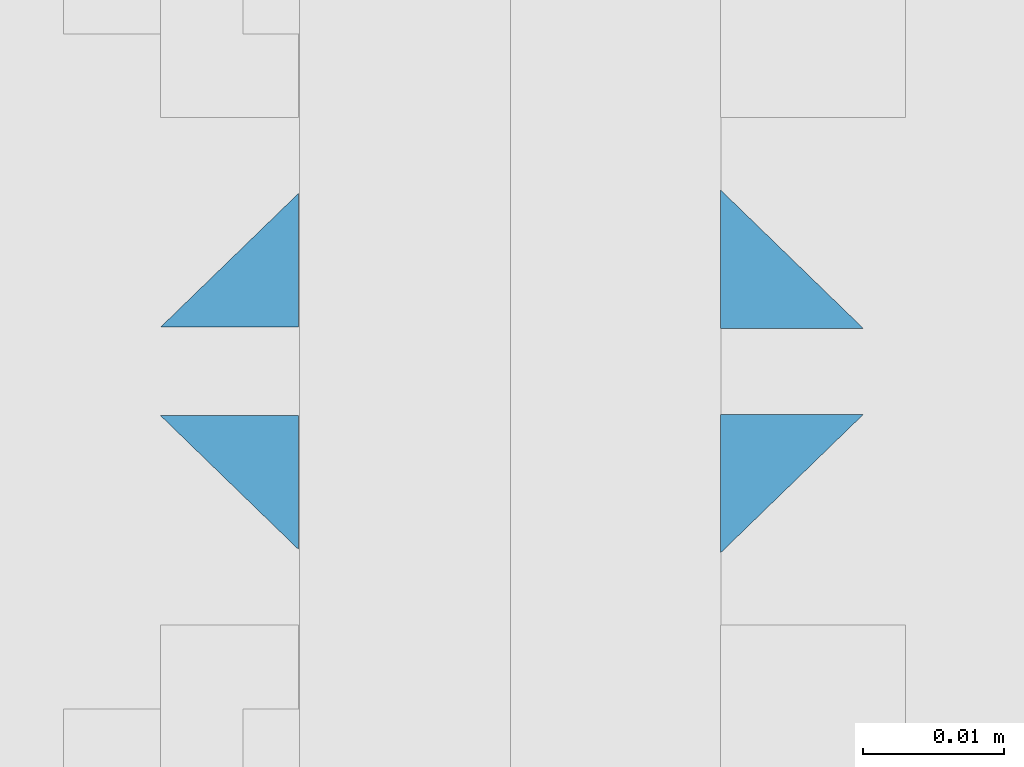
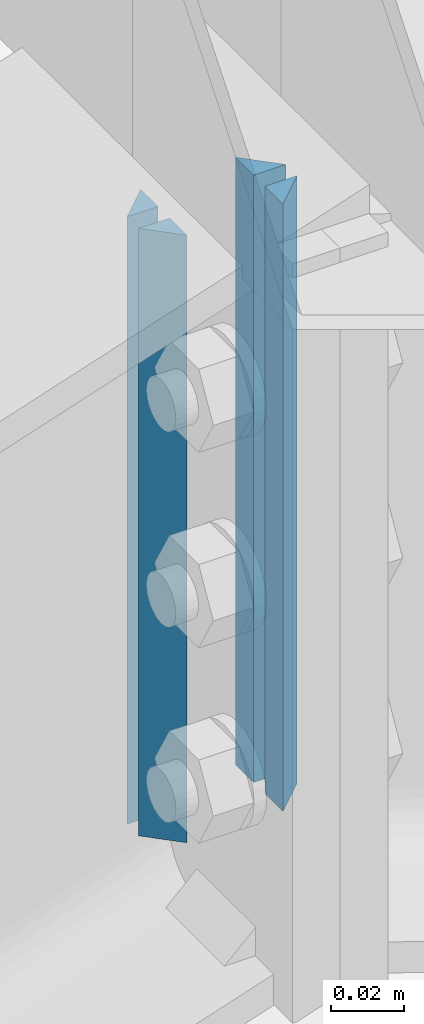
# One storey, part 14 of 53: 6 fasteners.
"""IFC4 building model written with IfcOpenShell, lengths in metres."""

from ifc_helpers import new_model, si_unit, frame, origin_with_axes, place, context, project, spatial, polyline, outline, extrude, type_object, element, save


model = new_model("IFC4")

# Units and contexts
model_context = context("Model", 3, precision=1e-05, world=origin_with_axes())
ifc_project = project(units=[si_unit("LENGTHUNIT", "METRE"), si_unit("AREAUNIT", "SQUARE_METRE"), si_unit("VOLUMEUNIT", "CUBIC_METRE"), si_unit("MASSUNIT", "GRAM", prefix="KILO"), si_unit("TIMEUNIT", "SECOND"), si_unit("PLANEANGLEUNIT", "RADIAN"), si_unit("SOLIDANGLEUNIT", "STERADIAN"), si_unit("THERMODYNAMICTEMPERATUREUNIT", "DEGREE_CELSIUS")], contexts=[model_context])

# Site, building, storey
placement_1 = place(None, origin_with_axes())
site = spatial("IfcSite", under=ifc_project, at=placement_1, Name="Italia", CompositionType="ELEMENT")
building = spatial("IfcBuilding", under=site, at=placement_1, Name="Capannone", CompositionType="ELEMENT")
storey_placement = place(None, frame((0.0, 0.0, 5.550000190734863), z_axis=(0.0, 0.0, 1.0), x_axis=(1.0, 0.0, 0.0)))
storey = spatial("IfcBuildingStorey", under=building, at=storey_placement, Name="Storey 1", CompositionType="ELEMENT", Elevation=5.550000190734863)

# Fasteners
fastener_type_1 = type_object("IfcFastenerType", Name="Collegamenti -1142_-1128 -1143_-1130 -1144_-1132 -1145_-1134 -1146_-1136 -1147_-1138", PredefinedType="WELD")
placement_2 = place(placement_1, origin_with_axes())
fastener_1_placement = place(placement_2, origin_with_axes())
element("IfcFastener", 1, at=fastener_1_placement, inside=storey, type_object=fastener_type_1, Name="Collegamenti -1142_-1128 -1143_-1130 -1144_-1132 -1145_-1134 -1146_-1136 -1147_-1138", context=model_context, shape_type="SweptSolid", body=[
    extrude(outline(polyline([(0.0, 0.0), (0.00986814, 0.0101738), (0.00986814, 0.0), (0.0, 0.0)])), frame((7.01495, 5.98708, 8.07243), z_axis=(0.0, 0.0, -1.0), x_axis=(0.0, 1.0, 0.0)), (0.0, 0.0, 1.0), 0.202095),
])
fastener_type_2 = type_object("IfcFastenerType", Name="Collegamenti -1142_-1128 -1143_-1130 -1144_-1132 -1145_-1134 -1146_-1136 -1147_-1138", PredefinedType="WELD")
fastener_2_placement = place(placement_2, origin_with_axes())
element("IfcFastener", 2, at=fastener_2_placement, inside=storey, type_object=fastener_type_2, Name="Collegamenti -1142_-1128 -1143_-1130 -1144_-1132 -1145_-1134 -1146_-1136 -1147_-1138", context=model_context, shape_type="SweptSolid", body=[
    extrude(outline(polyline([(0.0, 0.0), (-0.00986814, -0.0101738), (-0.00986814, 0.0), (0.0, 0.0)])), frame((7.01495, 6.01292, 7.87034), z_axis=(0.0, 0.0, 1.0), x_axis=(0.0, 1.0, 0.0)), (0.0, 0.0, 1.0), 0.202095),
])
fastener_type_3 = type_object("IfcFastenerType", Name="Collegamenti -1142_-1128 -1143_-1130 -1144_-1132 -1145_-1134 -1146_-1136 -1147_-1138", PredefinedType="WELD")
fastener_3_placement = place(placement_2, origin_with_axes())
element("IfcFastener", 3, at=fastener_3_placement, inside=storey, type_object=fastener_type_3, Name="Collegamenti -1142_-1128 -1143_-1130 -1144_-1132 -1145_-1134 -1146_-1136 -1147_-1138", context=model_context, shape_type="SweptSolid", body=[
    extrude(outline(polyline([(0.0, 0.0), (0.00986814, 0.0101738), (0.00986814, 0.0), (0.0, 0.0)])), frame((7.01495, 5.98708, 8.07243), z_axis=(0.0, 0.0, -1.0), x_axis=(0.0, 1.0, 0.0)), (0.0, 0.0, 1.0), 0.202095),
])
fastener_type_4 = type_object("IfcFastenerType", Name="Collegamenti -1142_-1128 -1143_-1130 -1144_-1132 -1145_-1134 -1146_-1136 -1147_-1138", PredefinedType="WELD")
fastener_4_placement = place(placement_2, origin_with_axes())
element("IfcFastener", 4, at=fastener_4_placement, inside=storey, type_object=fastener_type_4, Name="Collegamenti -1142_-1128 -1143_-1130 -1144_-1132 -1145_-1134 -1146_-1136 -1147_-1138", context=model_context, shape_type="SweptSolid", body=[
    extrude(outline(polyline([(0.0, 0.0), (-0.00986814, -0.0101738), (-0.00986814, 0.0), (0.0, 0.0)])), frame((7.01495, 6.01292, 7.87034), z_axis=(0.0, 0.0, 1.0), x_axis=(0.0, 1.0, 0.0)), (0.0, 0.0, 1.0), 0.202095),
])
fastener_type_5 = type_object("IfcFastenerType", Name="Collegamenti -1142_-1128 -1143_-1130 -1144_-1132 -1145_-1134 -1146_-1136 -1147_-1138", PredefinedType="WELD")
fastener_5_placement = place(placement_2, origin_with_axes())
element("IfcFastener", 5, at=fastener_5_placement, inside=storey, type_object=fastener_type_5, Name="Collegamenti -1142_-1128 -1143_-1130 -1144_-1132 -1145_-1134 -1146_-1136 -1147_-1138", context=model_context, shape_type="SweptSolid", body=[
    extrude(outline(polyline([(0.0, 0.0), (-0.00953197, 0.00982714), (-0.00953197, 0.0), (0.0, 0.0)])), frame((6.98495, 6.01268, 7.87034), z_axis=(0.0, 0.0, 1.0), x_axis=(0.0, 1.0, 0.0)), (0.0, 0.0, 1.0), 0.202095),
])
fastener_type_6 = type_object("IfcFastenerType", Name="Collegamenti -1142_-1128 -1143_-1130 -1144_-1132 -1145_-1134 -1146_-1136 -1147_-1138", PredefinedType="WELD")
fastener_6_placement = place(placement_2, origin_with_axes())
element("IfcFastener", 6, at=fastener_6_placement, inside=storey, type_object=fastener_type_6, Name="Collegamenti -1142_-1128 -1143_-1130 -1144_-1132 -1145_-1134 -1146_-1136 -1147_-1138", context=model_context, shape_type="SweptSolid", body=[
    extrude(outline(polyline([(0.0, 0.0), (0.00953197, -0.00982714), (0.00953197, 0.0), (0.0, 0.0)])), frame((6.98495, 5.98732, 8.07243), z_axis=(0.0, 0.0, -1.0), x_axis=(0.0, 1.0, 0.0)), (0.0, 0.0, 1.0), 0.202095),
])

save(model, "model.ifc")
